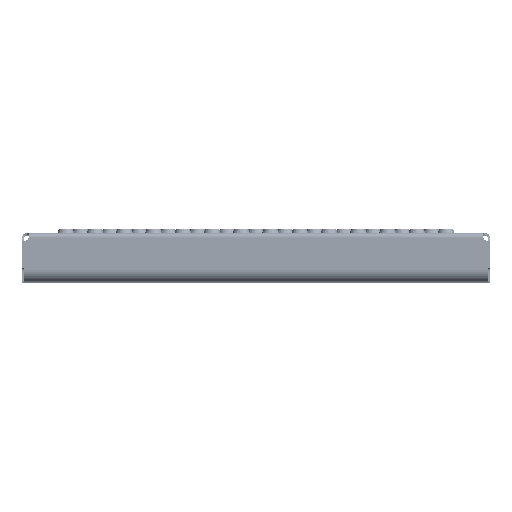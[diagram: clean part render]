
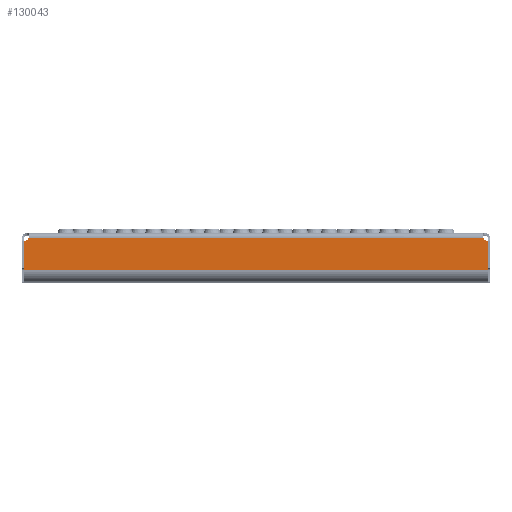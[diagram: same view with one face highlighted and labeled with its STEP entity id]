
A CAD part, top view. The second image highlights one B-rep face of the part: STEP entity #130043.
In plain terms, the highlighted planar face has unit normal (0, 0, 1).
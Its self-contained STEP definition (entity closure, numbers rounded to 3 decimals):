
#1333 = EDGE_CURVE ( 'NONE', #65183, #20847, #140886, .T. ) ;
#4174 = CARTESIAN_POINT ( 'NONE',  ( 197.99, -7.185, 112.5 ) ) ;
#9732 = CARTESIAN_POINT ( 'NONE',  ( 199., -2.288, 112.5 ) ) ;
#10664 = LINE ( 'NONE', #123000, #88827 ) ;
#17794 = ORIENTED_EDGE ( 'NONE', *, *, #1333, .T. ) ;
#20847 = VERTEX_POINT ( 'NONE', #116937 ) ;
#21774 = DIRECTION ( 'NONE',  ( 0., 0., -1. ) ) ;
#23584 = AXIS2_PLACEMENT_3D ( 'NONE', #9732, #21774, #126457 ) ;
#30811 = CIRCLE ( 'NONE', #23584, 5. ) ;
#32746 = CARTESIAN_POINT ( 'NONE',  ( -197.99, -31.998, 112.5 ) ) ;
#33234 = ORIENTED_EDGE ( 'NONE', *, *, #126755, .T. ) ;
#37057 = LINE ( 'NONE', #47627, #71952 ) ;
#37311 = AXIS2_PLACEMENT_3D ( 'NONE', #93619, #69505, #68039 ) ;
#41754 = VERTEX_POINT ( 'NONE', #103045 ) ;
#47627 = CARTESIAN_POINT ( 'NONE',  ( -197.99, -31.998, 112.5 ) ) ;
#50799 = DIRECTION ( 'NONE',  ( 0., 1., 0. ) ) ;
#65183 = VERTEX_POINT ( 'NONE', #122601 ) ;
#68039 = DIRECTION ( 'NONE',  ( 0., -1., 0. ) ) ;
#69505 = DIRECTION ( 'NONE',  ( 0., 0., -1. ) ) ;
#71952 = VECTOR ( 'NONE', #119218, 1000. ) ;
#72786 = ORIENTED_EDGE ( 'NONE', *, *, #128487, .T. ) ;
#74525 = VECTOR ( 'NONE', #50799, 1000. ) ;
#75792 = CARTESIAN_POINT ( 'NONE',  ( -199., 220.712, 112.5 ) ) ;
#75911 = AXIS2_PLACEMENT_3D ( 'NONE', #75792, #120292, #131649 ) ;
#77009 = EDGE_CURVE ( 'NONE', #65183, #122879, #10664, .T. ) ;
#78085 = VECTOR ( 'NONE', #131029, 1000. ) ;
#84677 = EDGE_CURVE ( 'NONE', #142242, #142683, #37057, .T. ) ;
#85447 = EDGE_CURVE ( 'NONE', #142683, #41754, #107404, .T. ) ;
#88827 = VECTOR ( 'NONE', #148646, 1000. ) ;
#93619 = CARTESIAN_POINT ( 'NONE',  ( -199., -2.288, 112.5 ) ) ;
#98569 = LINE ( 'NONE', #111417, #78085 ) ;
#103045 = CARTESIAN_POINT ( 'NONE',  ( 197.99, -7.185, 112.5 ) ) ;
#104809 = CARTESIAN_POINT ( 'NONE',  ( 194.302, -4., 112.5 ) ) ;
#107404 = LINE ( 'NONE', #4174, #74525 ) ;
#109027 = PLANE ( 'NONE',  #75911 ) ;
#111417 = CARTESIAN_POINT ( 'NONE',  ( -197.99, -7.185, 112.5 ) ) ;
#116937 = CARTESIAN_POINT ( 'NONE',  ( -197.99, -7.185, 112.5 ) ) ;
#117617 = ORIENTED_EDGE ( 'NONE', *, *, #77009, .F. ) ;
#117750 = EDGE_LOOP ( 'NONE', ( #127289, #120816, #33234, #117617, #17794, #72786 ) ) ;
#119218 = DIRECTION ( 'NONE',  ( 1., 0., 0. ) ) ;
#120292 = DIRECTION ( 'NONE',  ( 0., 0., 1. ) ) ;
#120816 = ORIENTED_EDGE ( 'NONE', *, *, #85447, .T. ) ;
#122601 = CARTESIAN_POINT ( 'NONE',  ( -194.302, -4., 112.5 ) ) ;
#122879 = VERTEX_POINT ( 'NONE', #104809 ) ;
#123000 = CARTESIAN_POINT ( 'NONE',  ( -199., -4., 112.5 ) ) ;
#126457 = DIRECTION ( 'NONE',  ( 0., -1., 0. ) ) ;
#126755 = EDGE_CURVE ( 'NONE', #41754, #122879, #30811, .T. ) ;
#127289 = ORIENTED_EDGE ( 'NONE', *, *, #84677, .T. ) ;
#128487 = EDGE_CURVE ( 'NONE', #20847, #142242, #98569, .T. ) ;
#130043 = ADVANCED_FACE ( 'NONE', ( #144478 ), #109027, .T. ) ;
#131029 = DIRECTION ( 'NONE',  ( 0., -1., 0. ) ) ;
#131649 = DIRECTION ( 'NONE',  ( 0., -1., 0. ) ) ;
#137394 = CARTESIAN_POINT ( 'NONE',  ( 197.99, -31.998, 112.5 ) ) ;
#140886 = CIRCLE ( 'NONE', #37311, 5. ) ;
#142242 = VERTEX_POINT ( 'NONE', #32746 ) ;
#142683 = VERTEX_POINT ( 'NONE', #137394 ) ;
#144478 = FACE_OUTER_BOUND ( 'NONE', #117750, .T. ) ;
#148646 = DIRECTION ( 'NONE',  ( 1., 0., 0. ) ) ;
